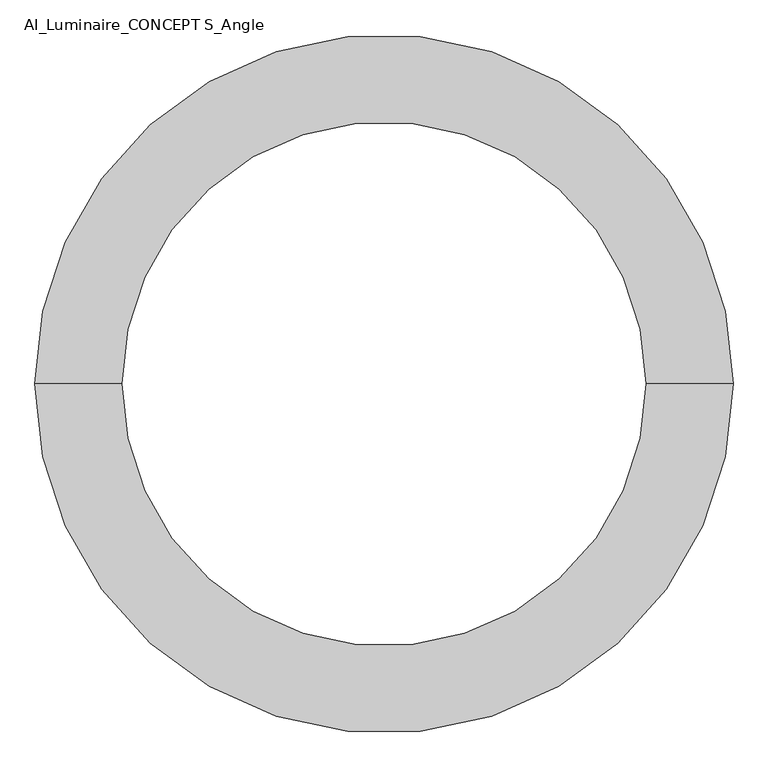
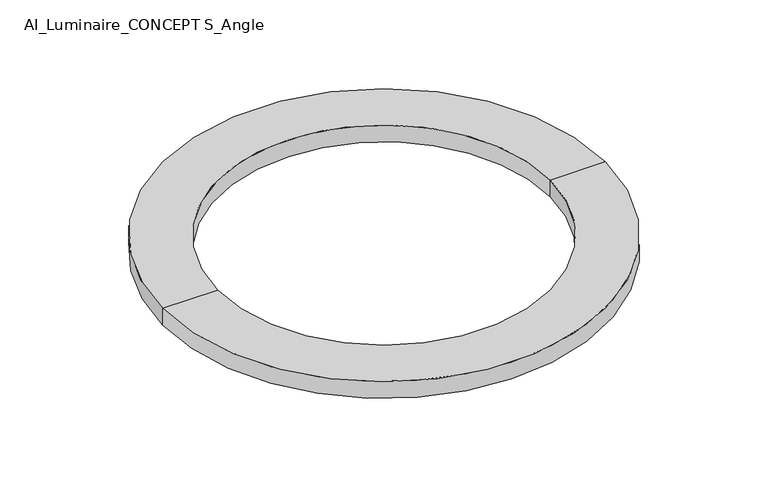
"""IFC4 building model written with IfcOpenShell, lengths in millimetres: light fixture geometry, AI_Luminaire_CONCEPT S_Angle : CONCEPTION O."""

from ifc_helpers import new_model, si_unit, frame, origin, place, context, project, spatial, polyline, circle_curve, source, transform, mapped, element, save
from ifc_brep_helpers import plane_surface, cylinder_surface, revolved_surface, advanced_brep


def ai_luminaire_concept_s_angle_915ad789(model_context):
    return source(origin(), model_context, "Body", "AdvancedBrep", [
        advanced_brep(
        [(1377.5, 0.0, 0.0), (1202.5, 0.0, 0.0), (147.5, 0.0, 0.0), (-27.5, 0.0, 0.0), (1202.5, 0.0, -56.0), (147.5, 0.0, -56.0), (1377.5, 0.0, -56.0), (-27.5, 0.0, -56.0)],
        [
            (0, 1),
            (1, 2, circle_curve(frame((675.0, 0.0, 0.0), z_axis=(0.0, 0.0, -1.0), x_axis=(-1.0, 0.0, 0.0)), 527.5)),
            (2, 3),
            (3, 0, circle_curve(frame((675.0, 0.0, 0.0), z_axis=(0.0, 0.0, 1.0), x_axis=(-1.0, 0.0, 0.0)), 702.5)),
            (1, 4),
            (4, 5, circle_curve(frame((675.0, 0.0, -56.0), z_axis=(0.0, 0.0, -1.0), x_axis=(-1.0, 0.0, 0.0)), 527.5)),
            (5, 2),
            (4, 6),
            (6, 7, circle_curve(frame((675.0, 0.0, -56.0), z_axis=(0.0, 0.0, -1.0), x_axis=(-1.0, 0.0, 0.0)), 702.5)),
            (7, 5),
            (6, 0),
            (3, 7),
            (3, 0, circle_curve(frame((675.0, 0.0, 0.0), z_axis=(0.0, 0.0, -1.0), x_axis=(-1.0, 0.0, 0.0)), 702.5)),
            (6, 7, circle_curve(frame((675.0, 0.0, -56.0), z_axis=(0.0, 0.0, 1.0), x_axis=(-1.0, 0.0, 0.0)), 702.5)),
            (4, 5, circle_curve(frame((675.0, 0.0, -56.0), z_axis=(0.0, 0.0, 1.0), x_axis=(-1.0, 0.0, 0.0)), 527.5)),
            (1, 2, circle_curve(frame((675.0, 0.0, 0.0), z_axis=(0.0, 0.0, 1.0), x_axis=(-1.0, 0.0, 0.0)), 527.5)),
        ],
        [
            plane_surface(frame((675.0, 0.0, 0.0), z_axis=(0.0, 0.0, 1.0), x_axis=(-1.0, 0.0, 0.0))),
            revolved_surface(polyline([(147.5, 0.0, -56.0), (147.5, 0.0, 0.0)]), (675.0, 0.0, 900.0), (0.0, 0.0, -1.0)),
            plane_surface(frame((675.0, 0.0, -56.0), z_axis=(0.0, 0.0, -1.0), x_axis=(-1.0, 0.0, 0.0))),
            cylinder_surface(frame((675.0, 0.0, 900.0), z_axis=(0.0, 0.0, -1.0), x_axis=(-1.0, 0.0, 0.0)), 702.5),
        ],
        [
            (0, [[1, 2, 3, 4]]),
            (1, [[5, 6, 7, -2]]),
            (2, [[8, 9, 10, -6]]),
            (3, [[11, -4, 12, -9]]),
            (3, [[-12, 13, -11, 14]]),
            (2, [[-10, -14, -8, 15]]),
            (1, [[-7, -15, -5, 16]]),
            (0, [[-3, -16, -1, -13]]),
        ],
    ),
    ])


if __name__ == "__main__":
    model = new_model("IFC4")
    model_context = context("Model", 3, world=origin())
    ifc_project = project(units=[si_unit("LENGTHUNIT", "METRE", prefix="MILLI")], contexts=[model_context])
    site = spatial("IfcSite", under=ifc_project)
    building = spatial("IfcBuilding", under=site)
    placement = place(None, origin())
    ai_luminaire_concept_s_angle_shape = ai_luminaire_concept_s_angle_915ad789(model_context)
    element("IfcLightFixture", 1, ObjectType="AI_Luminaire_CONCEPT S_Angle : CONCEPTION O", at=placement, inside=building, context=model_context, shape_type="MappedRepresentation", body=[
        mapped(ai_luminaire_concept_s_angle_shape, transform((0.0, 0.0, 0.0), x_axis=(1.0, 0.0, 0.0), y_axis=(0.0, 1.0, 0.0), z_axis=(0.0, 0.0, 1.0))),
    ])
    save(model, "model.ifc")
